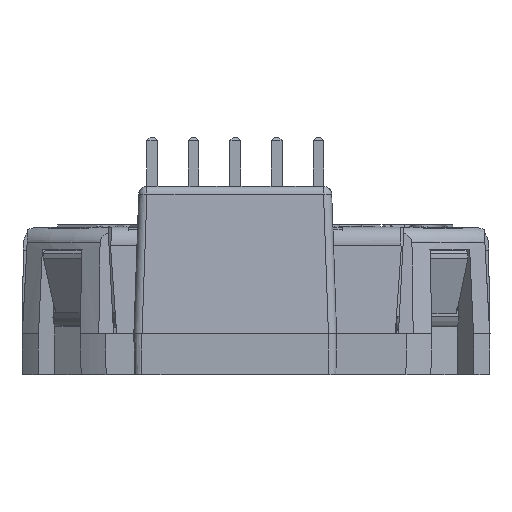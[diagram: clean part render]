
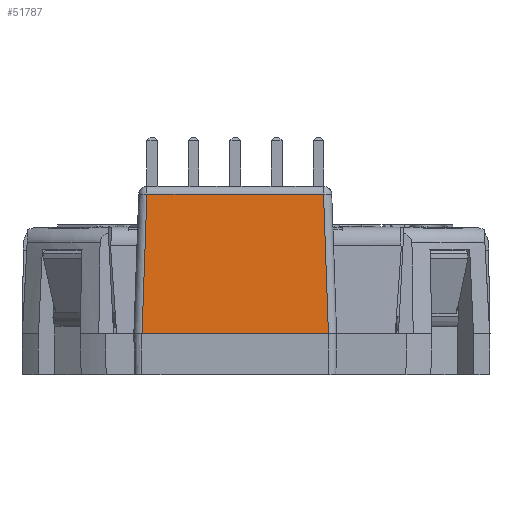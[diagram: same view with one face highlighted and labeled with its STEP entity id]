
A CAD part, front view. The second image highlights one B-rep face of the part: STEP entity #51787.
In plain terms, the highlighted planar face has unit normal (0, -0.999, 0.052) as drawn and (0, -0.999, -0.052) by its records, which use the part's own axes.
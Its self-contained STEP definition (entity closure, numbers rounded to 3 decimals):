
#2079 = PLANE ( 'NONE',  #25342 ) ;
#2324 = LINE ( 'NONE', #28979, #20868 ) ;
#2478 = EDGE_CURVE ( 'NONE', #51556, #11100, #60249, .T. ) ;
#2884 = CARTESIAN_POINT ( 'NONE',  ( 0., -18.872, 6.5 ) ) ;
#3313 = CARTESIAN_POINT ( 'NONE',  ( -4.128, -18.426, -2. ) ) ;
#4653 = DIRECTION ( 'NONE',  ( 0.035, -0.052, 0.998 ) ) ;
#6666 = VECTOR ( 'NONE', #43938, 1000. ) ;
#9228 = CARTESIAN_POINT ( 'NONE',  ( 6.6, -18.425, -2.026 ) ) ;
#11100 = VERTEX_POINT ( 'NONE', #28439 ) ;
#13725 = EDGE_CURVE ( 'NONE', #58232, #51556, #48098, .T. ) ;
#16369 = DIRECTION ( 'NONE',  ( 0., 0.052, -0.999 ) ) ;
#19727 = FACE_OUTER_BOUND ( 'NONE', #42560, .T. ) ;
#20456 = ORIENTED_EDGE ( 'NONE', *, *, #2478, .T. ) ;
#20868 = VECTOR ( 'NONE', #4653, 1000. ) ;
#21941 = DIRECTION ( 'NONE',  ( -1., 0., 0. ) ) ;
#23916 = VECTOR ( 'NONE', #48094, 1000. ) ;
#25342 = AXIS2_PLACEMENT_3D ( 'NONE', #46179, #42035, #16369 ) ;
#28213 = EDGE_CURVE ( 'NONE', #59909, #58232, #36863, .T. ) ;
#28439 = CARTESIAN_POINT ( 'NONE',  ( 6.667, -18.425, -2.026 ) ) ;
#28979 = CARTESIAN_POINT ( 'NONE',  ( 6.651, -18.4, -2.502 ) ) ;
#33465 = CARTESIAN_POINT ( 'NONE',  ( 6.965, -18.872, 6.5 ) ) ;
#33764 = VECTOR ( 'NONE', #21941, 1000. ) ;
#36863 = LINE ( 'NONE', #2884, #33764 ) ;
#38210 = CARTESIAN_POINT ( 'NONE',  ( -4.127, -18.425, -2.026 ) ) ;
#41926 = CARTESIAN_POINT ( 'NONE',  ( -4.425, -18.872, 6.5 ) ) ;
#42035 = DIRECTION ( 'NONE',  ( 0., -0.999, -0.052 ) ) ;
#42560 = EDGE_LOOP ( 'NONE', ( #20456, #54143, #45916, #45366 ) ) ;
#43938 = DIRECTION ( 'NONE',  ( 1., 0., 0. ) ) ;
#45366 = ORIENTED_EDGE ( 'NONE', *, *, #13725, .T. ) ;
#45916 = ORIENTED_EDGE ( 'NONE', *, *, #28213, .T. ) ;
#46179 = CARTESIAN_POINT ( 'NONE',  ( 6.6, -18.4, -2.5 ) ) ;
#48094 = DIRECTION ( 'NONE',  ( 0.035, 0.052, -0.998 ) ) ;
#48098 = LINE ( 'NONE', #3313, #23916 ) ;
#51556 = VERTEX_POINT ( 'NONE', #38210 ) ;
#51787 = ADVANCED_FACE ( 'NONE', ( #19727 ), #2079, .T. ) ;
#54143 = ORIENTED_EDGE ( 'NONE', *, *, #55974, .T. ) ;
#55974 = EDGE_CURVE ( 'NONE', #11100, #59909, #2324, .T. ) ;
#58232 = VERTEX_POINT ( 'NONE', #41926 ) ;
#59909 = VERTEX_POINT ( 'NONE', #33465 ) ;
#60249 = LINE ( 'NONE', #9228, #6666 ) ;
